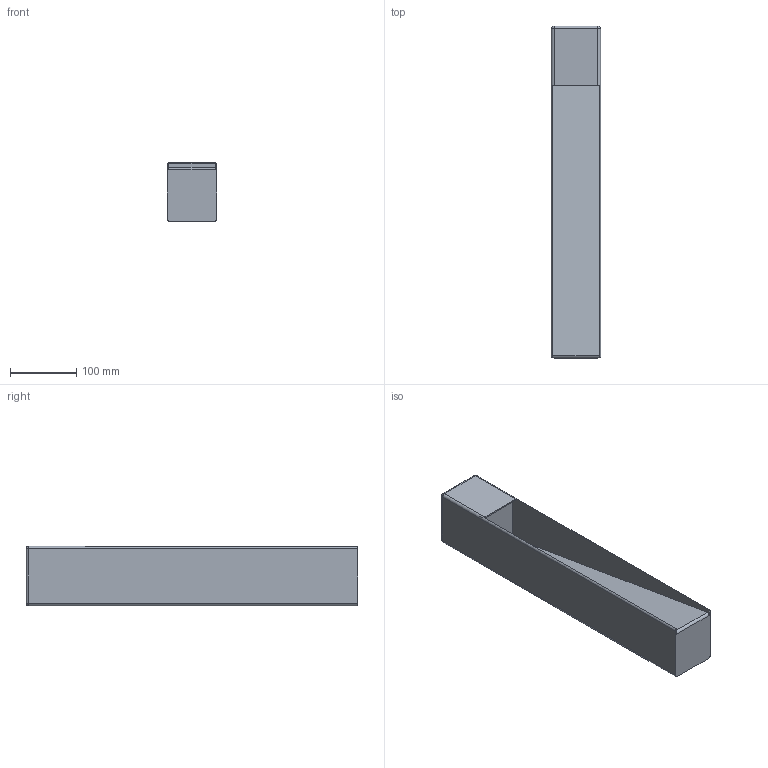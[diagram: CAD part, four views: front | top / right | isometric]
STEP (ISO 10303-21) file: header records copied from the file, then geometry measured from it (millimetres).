
FILE_DESCRIPTION (( 'STEP AP203' ), '1' );
FILE_NAME ('SPREAD 500 3D MODEL.STEP', '2016-09-30T13:26:56', ( '' ), ( '' ), 'SwSTEP 2.0', 'SolidWorks 2016', '' );
FILE_SCHEMA (( 'CONFIG_CONTROL_DESIGN' ));
Length unit declared in the file: millimetre
Products named in the file (1): SPREAD 500 3D MODEL
Bounding box: 74 x 500 x 89.5 mm (x, y, z)
Volume: 2091679.1 mm3; surface area: 213192.4 mm2
Topology: 1 solids, 1 shells, 26 faces, 64 edges, 36 vertices
Faces by surface type: plane 13, cylinder 9, sphere 4
Entity records: 805 total; most frequent: DIRECTION 134, CARTESIAN_POINT 123, ORIENTED_EDGE 120, EDGE_CURVE 60, AXIS2_PLACEMENT_3D 47, LINE 40, VECTOR 40, VERTEX_POINT 36
